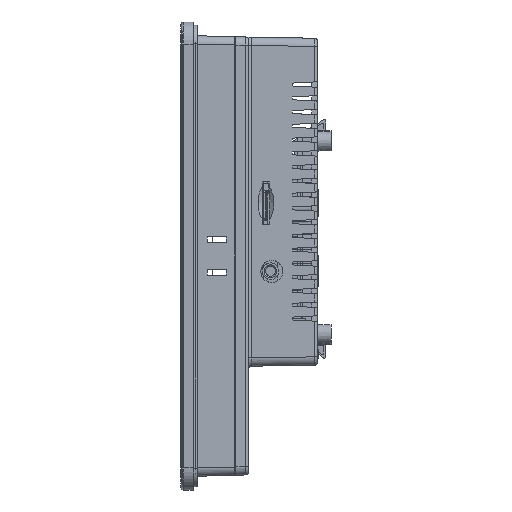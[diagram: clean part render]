
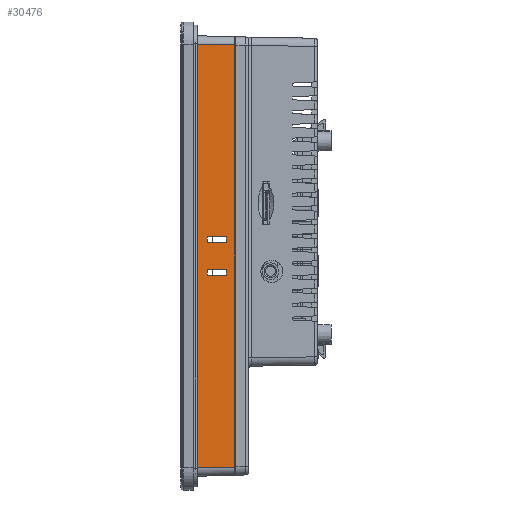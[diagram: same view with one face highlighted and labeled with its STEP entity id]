
A CAD part, left-side view. The second image highlights one B-rep face of the part: STEP entity #30476.
In plain terms, the highlighted planar face has unit normal (-1, -0.018, 0).
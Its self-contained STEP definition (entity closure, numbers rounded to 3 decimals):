
#1062 = LINE ( 'NONE', #20489, #34415 ) ;
#4346 = DIRECTION ( 'NONE',  ( 0.017, -1., 0.017 ) ) ;
#4549 = EDGE_CURVE ( 'NONE', #95727, #92171, #94837, .T. ) ;
#6534 = FACE_BOUND ( 'NONE', #67549, .T. ) ;
#6864 = CARTESIAN_POINT ( 'NONE',  ( -126.738, -15., -76.739 ) ) ;
#7793 = CARTESIAN_POINT ( 'NONE',  ( -127., 0., -4.9 ) ) ;
#8286 = CARTESIAN_POINT ( 'NONE',  ( -126.913, -5., 4.9 ) ) ;
#8576 = VECTOR ( 'NONE', #24436, 1000. ) ;
#10505 = DIRECTION ( 'NONE',  ( 0., 0., 1. ) ) ;
#10822 = ORIENTED_EDGE ( 'NONE', *, *, #84870, .T. ) ;
#11337 = EDGE_CURVE ( 'NONE', #42703, #36754, #46761, .T. ) ;
#13492 = VECTOR ( 'NONE', #17597, 1000. ) ;
#14582 = VECTOR ( 'NONE', #59305, 1000. ) ;
#16238 = DIRECTION ( 'NONE',  ( -1., -0.017, 0. ) ) ;
#16511 = VERTEX_POINT ( 'NONE', #54767 ) ;
#17597 = DIRECTION ( 'NONE',  ( 0., 0., 1. ) ) ;
#20489 = CARTESIAN_POINT ( 'NONE',  ( -127.001, 0.052, 77.001 ) ) ;
#21647 = ORIENTED_EDGE ( 'NONE', *, *, #58730, .F. ) ;
#21977 = LINE ( 'NONE', #110628, #14582 ) ;
#22272 = CARTESIAN_POINT ( 'NONE',  ( -126.913, -5., 80. ) ) ;
#23561 = EDGE_CURVE ( 'NONE', #73102, #95727, #69735, .T. ) ;
#23689 = VERTEX_POINT ( 'NONE', #107095 ) ;
#24436 = DIRECTION ( 'NONE',  ( -0.017, 1., 0. ) ) ;
#25585 = EDGE_CURVE ( 'NONE', #92193, #16511, #1062, .T. ) ;
#28404 = VECTOR ( 'NONE', #82121, 1000. ) ;
#29298 = ORIENTED_EDGE ( 'NONE', *, *, #11337, .F. ) ;
#30476 = ADVANCED_FACE ( 'NONE', ( #85918, #33996, #6534 ), #58831, .T. ) ;
#30774 = LINE ( 'NONE', #22272, #28404 ) ;
#32068 = CARTESIAN_POINT ( 'NONE',  ( -126.738, -15., 80. ) ) ;
#33996 = FACE_OUTER_BOUND ( 'NONE', #60798, .T. ) ;
#34415 = VECTOR ( 'NONE', #45140, 1000. ) ;
#35946 = VERTEX_POINT ( 'NONE', #103095 ) ;
#36297 = VERTEX_POINT ( 'NONE', #6864 ) ;
#36754 = VERTEX_POINT ( 'NONE', #102690 ) ;
#37374 = EDGE_CURVE ( 'NONE', #77134, #73102, #30774, .T. ) ;
#37447 = CARTESIAN_POINT ( 'NONE',  ( -127.026, 1.5, -77. ) ) ;
#42703 = VERTEX_POINT ( 'NONE', #91344 ) ;
#44675 = CARTESIAN_POINT ( 'NONE',  ( -126.791, -12., 7. ) ) ;
#44913 = LINE ( 'NONE', #37447, #59731 ) ;
#45140 = DIRECTION ( 'NONE',  ( -0.017, 1., 0.017 ) ) ;
#46067 = DIRECTION ( 'NONE',  ( 0., 0., -1. ) ) ;
#46761 = LINE ( 'NONE', #56003, #48304 ) ;
#46805 = ORIENTED_EDGE ( 'NONE', *, *, #23561, .F. ) ;
#48304 = VECTOR ( 'NONE', #91218, 1000. ) ;
#50920 = AXIS2_PLACEMENT_3D ( 'NONE', #103183, #16238, #87071 ) ;
#51889 = DIRECTION ( 'NONE',  ( -0.017, 1., 0. ) ) ;
#52367 = DIRECTION ( 'NONE',  ( 0.017, -1., 0. ) ) ;
#53256 = VERTEX_POINT ( 'NONE', #76341 ) ;
#54767 = CARTESIAN_POINT ( 'NONE',  ( -127.026, 1.5, 77.027 ) ) ;
#56003 = CARTESIAN_POINT ( 'NONE',  ( -126.913, -5., 80. ) ) ;
#56859 = ORIENTED_EDGE ( 'NONE', *, *, #4549, .F. ) ;
#58590 = DIRECTION ( 'NONE',  ( 0., 0., -1. ) ) ;
#58730 = EDGE_CURVE ( 'NONE', #23689, #53256, #106676, .T. ) ;
#58831 = PLANE ( 'NONE',  #50920 ) ;
#59305 = DIRECTION ( 'NONE',  ( 0.017, -1., 0. ) ) ;
#59700 = ORIENTED_EDGE ( 'NONE', *, *, #100855, .F. ) ;
#59731 = VECTOR ( 'NONE', #46067, 1000. ) ;
#60117 = LINE ( 'NONE', #7793, #8576 ) ;
#60560 = VECTOR ( 'NONE', #10505, 1000. ) ;
#60798 = EDGE_LOOP ( 'NONE', ( #10822, #60951, #60952, #70418 ) ) ;
#60951 = ORIENTED_EDGE ( 'NONE', *, *, #70778, .T. ) ;
#60952 = ORIENTED_EDGE ( 'NONE', *, *, #81396, .F. ) ;
#61183 = CARTESIAN_POINT ( 'NONE',  ( -126.791, -12., 80. ) ) ;
#66453 = CARTESIAN_POINT ( 'NONE',  ( -126.952, -2.739, -76.953 ) ) ;
#66719 = LINE ( 'NONE', #32068, #79013 ) ;
#67549 = EDGE_LOOP ( 'NONE', ( #99118, #21647, #106269, #29298 ) ) ;
#67928 = CARTESIAN_POINT ( 'NONE',  ( -126.791, -12., 4.9 ) ) ;
#68706 = CARTESIAN_POINT ( 'NONE',  ( -127., 0., 7. ) ) ;
#69735 = LINE ( 'NONE', #104795, #78341 ) ;
#70418 = ORIENTED_EDGE ( 'NONE', *, *, #25585, .T. ) ;
#70778 = EDGE_CURVE ( 'NONE', #35946, #36297, #83134, .T. ) ;
#73102 = VERTEX_POINT ( 'NONE', #8286 ) ;
#76214 = LINE ( 'NONE', #68706, #89541 ) ;
#76341 = CARTESIAN_POINT ( 'NONE',  ( -126.791, -12., -4.9 ) ) ;
#77134 = VERTEX_POINT ( 'NONE', #110865 ) ;
#77648 = EDGE_LOOP ( 'NONE', ( #59700, #56859, #46805, #78135 ) ) ;
#78135 = ORIENTED_EDGE ( 'NONE', *, *, #37374, .F. ) ;
#78341 = VECTOR ( 'NONE', #52367, 1000. ) ;
#79013 = VECTOR ( 'NONE', #58590, 1000. ) ;
#81207 = EDGE_CURVE ( 'NONE', #36754, #23689, #21977, .T. ) ;
#81396 = EDGE_CURVE ( 'NONE', #92193, #36297, #66719, .T. ) ;
#82121 = DIRECTION ( 'NONE',  ( 0., 0., -1. ) ) ;
#83134 = LINE ( 'NONE', #66453, #101841 ) ;
#84870 = EDGE_CURVE ( 'NONE', #16511, #35946, #44913, .T. ) ;
#85918 = FACE_BOUND ( 'NONE', #77648, .T. ) ;
#86682 = EDGE_CURVE ( 'NONE', #53256, #42703, #60117, .T. ) ;
#87071 = DIRECTION ( 'NONE',  ( 0.017, -1., 0. ) ) ;
#88620 = CARTESIAN_POINT ( 'NONE',  ( -126.738, -15., 76.739 ) ) ;
#89541 = VECTOR ( 'NONE', #51889, 1000. ) ;
#91218 = DIRECTION ( 'NONE',  ( 0., 0., -1. ) ) ;
#91344 = CARTESIAN_POINT ( 'NONE',  ( -126.913, -5., -4.9 ) ) ;
#92171 = VERTEX_POINT ( 'NONE', #44675 ) ;
#92193 = VERTEX_POINT ( 'NONE', #88620 ) ;
#94837 = LINE ( 'NONE', #112620, #13492 ) ;
#95727 = VERTEX_POINT ( 'NONE', #67928 ) ;
#99118 = ORIENTED_EDGE ( 'NONE', *, *, #86682, .F. ) ;
#100855 = EDGE_CURVE ( 'NONE', #92171, #77134, #76214, .T. ) ;
#101841 = VECTOR ( 'NONE', #4346, 1000. ) ;
#102690 = CARTESIAN_POINT ( 'NONE',  ( -126.913, -5., -7. ) ) ;
#103095 = CARTESIAN_POINT ( 'NONE',  ( -127.026, 1.5, -77.027 ) ) ;
#103183 = CARTESIAN_POINT ( 'NONE',  ( -127., 0., 80. ) ) ;
#104795 = CARTESIAN_POINT ( 'NONE',  ( -127., 0., 4.9 ) ) ;
#106269 = ORIENTED_EDGE ( 'NONE', *, *, #81207, .F. ) ;
#106676 = LINE ( 'NONE', #61183, #60560 ) ;
#107095 = CARTESIAN_POINT ( 'NONE',  ( -126.791, -12., -7. ) ) ;
#110628 = CARTESIAN_POINT ( 'NONE',  ( -127., 0., -7. ) ) ;
#110865 = CARTESIAN_POINT ( 'NONE',  ( -126.913, -5., 7. ) ) ;
#112620 = CARTESIAN_POINT ( 'NONE',  ( -126.791, -12., 80. ) ) ;
